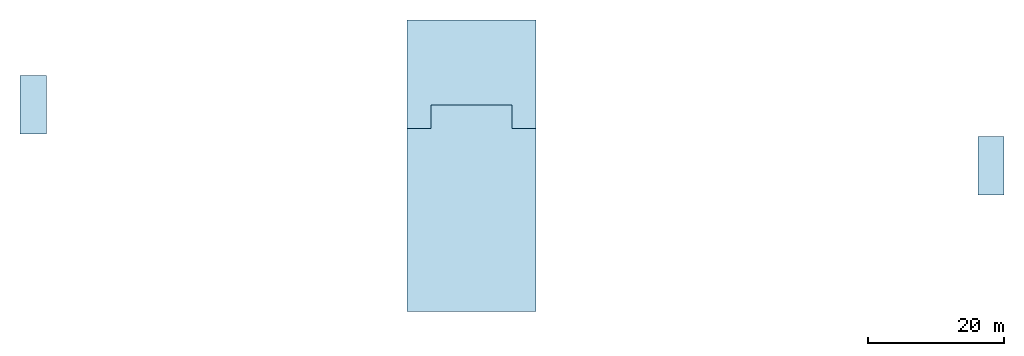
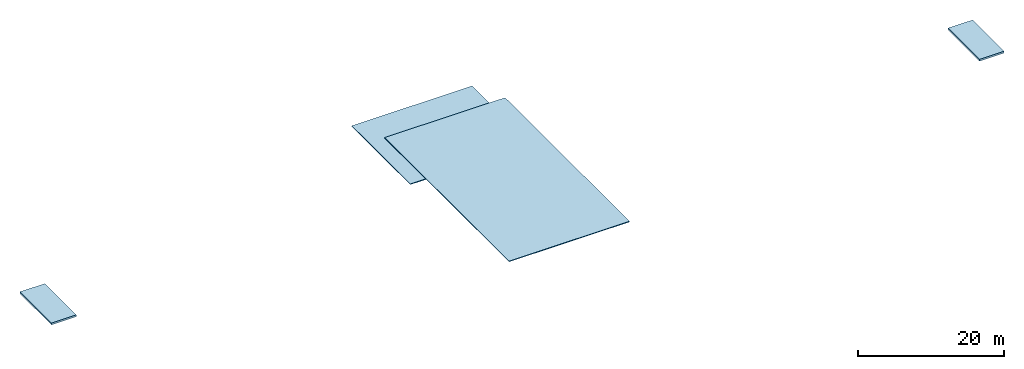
# One storey: 4 slabs.
"""IFC2X3 building model written with IfcOpenShell, lengths in millimetres."""

from ifc_helpers import new_model, si_unit, origin, place, context, project, spatial, faceted_brep, material, element, save


model = new_model("IFC2X3")

# Units and contexts
context_of_model = context(None, 3, precision=1e-05, world=origin())
ifc_project = project(units=[si_unit("LENGTHUNIT", "METRE", prefix="MILLI")], contexts=[context_of_model])

# Building, storey
building = spatial("IfcBuilding", under=ifc_project, Name="Building", CompositionType="ELEMENT")
storey = spatial("IfcBuildingStorey", under=building, Name="ROF-PLT", CompositionType="ELEMENT")

# Slabs
ifc_material_1 = material(Name="A36")
slab_1_placement = place(None, origin())
element("IfcSlab", 1, at=slab_1_placement, inside=storey, material=ifc_material_1, Name="Floor", PredefinedType="FLOOR", context=context_of_model, shape_type="Brep", body=[
    faceted_brep([(-60568.0, 22700.0, 25264.0), (-56650.0, 22700.0, 25264.0), (-56650.0, 22700.0, 25564.0), (-60568.0, 22700.0, 25564.0), (-56650.0, 31300.0, 25264.0), (-56650.0, 31300.0, 25564.0), (-60568.0, 31300.0, 25264.0), (-60568.0, 31300.0, 25564.0)], [[[0, 1, 2, 3]], [[1, 4, 5, 2]], [[4, 6, 7, 5]], [[6, 0, 3, 7]], [[3, 2, 5, 7]], [[0, 6, 4, 1]]]),
])
ifc_material_2 = material(Name="A36")
slab_2_placement = place(None, origin())
element("IfcSlab", 2, at=slab_2_placement, inside=storey, material=ifc_material_2, Name="Floor53", PredefinedType="FLOOR", context=context_of_model, shape_type="Brep", body=[
    faceted_brep([(80650.0, 13700.0, 25264.0), (84500.0, 13700.0, 25264.0), (84500.0, 13700.0, 25564.0), (80650.0, 13700.0, 25564.0), (84500.0, 22300.0, 25264.0), (84500.0, 22300.0, 25564.0), (80650.0, 22300.0, 25264.0), (80650.0, 22300.0, 25564.0)], [[[0, 1, 2, 3]], [[1, 4, 5, 2]], [[4, 6, 7, 5]], [[6, 0, 3, 7]], [[3, 2, 5, 7]], [[0, 6, 4, 1]]]),
])
ifc_material_3 = material(Name="C3000")
slab_3_placement = place(None, origin())
element("IfcSlab", 3, at=slab_3_placement, inside=storey, material=ifc_material_3, Name="Wall185", PredefinedType="FLOOR", context=context_of_model, shape_type="Brep", body=[
    faceted_brep([(-3500.0, 30500.0, 31800.0), (15500.0, 30500.0, 31800.0), (15500.0, 30500.0, 31673.0), (-3500.0, 30500.0, 31673.0), (15500.0, -3500.0, 31800.0), (15500.0, -3500.0, 31673.0), (-3500.0, -3500.0, 31800.0), (-3500.0, -3500.0, 31673.0)], [[[0, 1, 2, 3]], [[1, 4, 5, 2]], [[4, 6, 7, 5]], [[6, 0, 3, 7]], [[3, 2, 5, 7]], [[0, 6, 4, 1]]]),
])
ifc_material_4 = material(Name="C3000")
slab_4_placement = place(None, origin())
element("IfcSlab", 4, at=slab_4_placement, inside=storey, material=ifc_material_4, Name="Wall186", PredefinedType="FLOOR", context=context_of_model, shape_type="Brep", body=[
    faceted_brep([(12000.0, 23500.0, 28173.0), (15500.0, 23500.0, 28173.0), (15500.0, 23500.0, 28300.0), (12000.0, 23500.0, 28300.0), (15500.0, 39500.0, 28173.0), (15500.0, 39500.0, 28300.0), (-3500.0, 39500.0, 28173.0), (-3500.0, 39500.0, 28300.0), (-3500.0, 23500.0, 28173.0), (-3500.0, 23500.0, 28300.0), (0.0, 23500.0, 28173.0), (0.0, 23500.0, 28300.0), (0.0, 27000.0, 28173.0), (0.0, 27000.0, 28300.0), (12000.0, 27000.0, 28173.0), (12000.0, 27000.0, 28300.0)], [[[0, 1, 2, 3]], [[1, 4, 5, 2]], [[4, 6, 7, 5]], [[6, 8, 9, 7]], [[8, 10, 11, 9]], [[10, 12, 13, 11]], [[12, 14, 15, 13]], [[14, 0, 3, 15]], [[3, 2, 5, 7, 9, 11, 13, 15]], [[0, 14, 12, 10, 8, 6, 4, 1]]]),
])

save(model, "model.ifc")
